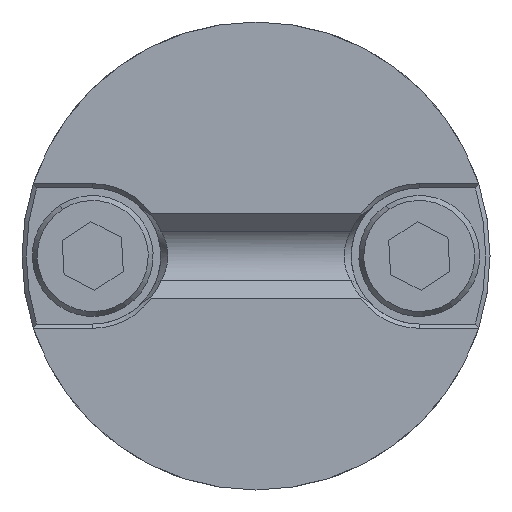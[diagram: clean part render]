
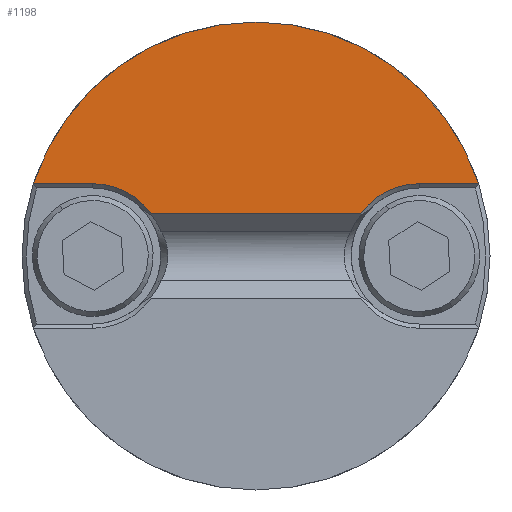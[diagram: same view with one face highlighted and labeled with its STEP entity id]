
A CAD part, front view. The second image highlights one B-rep face of the part: STEP entity #1198.
In plain terms, the highlighted planar face has unit normal (0, -1, 0).
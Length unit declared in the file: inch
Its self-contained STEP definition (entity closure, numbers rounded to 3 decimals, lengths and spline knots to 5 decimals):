
#2 = DIRECTION ( 'NONE',  ( 0., 0., 1. ) ) ;
#6 = DIRECTION ( 'NONE',  ( 0., 1., 0. ) ) ;
#19 = CARTESIAN_POINT ( 'NONE',  ( 0.3, 0., 0. ) ) ;
#158 = DIRECTION ( 'NONE',  ( 0., 0., 1. ) ) ;
#204 = DIRECTION ( 'NONE',  ( 0., 1., 0. ) ) ;
#206 = PLANE ( 'NONE',  #1285 ) ;
#211 = CARTESIAN_POINT ( 'NONE',  ( 0., 0., 0. ) ) ;
#433 = CIRCLE ( 'NONE', #1360, 0.13281 ) ;
#515 = LINE ( 'NONE', #1479, #555 ) ;
#555 = VECTOR ( 'NONE', #1480, 39.37008 ) ;
#585 = CIRCLE ( 'NONE', #1298, 0.43 ) ;
#590 = CIRCLE ( 'NONE', #1322, 0.13281 ) ;
#596 = CIRCLE ( 'NONE', #1238, 0.43 ) ;
#722 = CARTESIAN_POINT ( 'NONE',  ( -0.19242, 0., -0.07789 ) ) ;
#744 = CARTESIAN_POINT ( 'NONE',  ( -0.40898, 0., -0.13281 ) ) ;
#747 = CARTESIAN_POINT ( 'NONE',  ( 0.40898, 0., -0.13281 ) ) ;
#756 = CARTESIAN_POINT ( 'NONE',  ( 0.19242, 0., -0.07789 ) ) ;
#768 = CARTESIAN_POINT ( 'NONE',  ( 0.3, 0., -0.13281 ) ) ;
#857 = EDGE_LOOP ( 'NONE', ( #2012, #2190, #2210, #2175, #986, #983, #985 ) ) ;
#983 = ORIENTED_EDGE ( 'NONE', *, *, #1807, .F. ) ;
#985 = ORIENTED_EDGE ( 'NONE', *, *, #1719, .F. ) ;
#986 = ORIENTED_EDGE ( 'NONE', *, *, #1688, .T. ) ;
#1020 = VECTOR ( 'NONE', #2120, 39.37008 ) ;
#1023 = LINE ( 'NONE', #2028, #1020 ) ;
#1041 = VECTOR ( 'NONE', #2153, 39.37008 ) ;
#1047 = LINE ( 'NONE', #2100, #1041 ) ;
#1057 = FACE_OUTER_BOUND ( 'NONE', #857, .T. ) ;
#1198 = ADVANCED_FACE ( 'NONE', ( #1057 ), #206, .F. ) ;
#1227 = CARTESIAN_POINT ( 'NONE',  ( -0.3, 0., 0. ) ) ;
#1232 = DIRECTION ( 'NONE',  ( 0., 1., 0. ) ) ;
#1238 = AXIS2_PLACEMENT_3D ( 'NONE', #2001, #1990, #1994 ) ;
#1285 = AXIS2_PLACEMENT_3D ( 'NONE', #211, #204, #158 ) ;
#1298 = AXIS2_PLACEMENT_3D ( 'NONE', #1582, #1594, #1592 ) ;
#1322 = AXIS2_PLACEMENT_3D ( 'NONE', #1227, #1232, #1486 ) ;
#1360 = AXIS2_PLACEMENT_3D ( 'NONE', #19, #6, #2 ) ;
#1479 = CARTESIAN_POINT ( 'NONE',  ( -0.25, 0., -0.07789 ) ) ;
#1480 = DIRECTION ( 'NONE',  ( 1., 0., 0. ) ) ;
#1486 = DIRECTION ( 'NONE',  ( 0., 0., 1. ) ) ;
#1522 = CARTESIAN_POINT ( 'NONE',  ( -0.3, 0., -0.13281 ) ) ;
#1535 = CARTESIAN_POINT ( 'NONE',  ( 0., 0., -0.43 ) ) ;
#1582 = CARTESIAN_POINT ( 'NONE',  ( 0., 0., 0. ) ) ;
#1592 = DIRECTION ( 'NONE',  ( 0., 0., 1. ) ) ;
#1594 = DIRECTION ( 'NONE',  ( 0., 1., 0. ) ) ;
#1686 = EDGE_CURVE ( 'NONE', #1870, #1897, #1023, .T. ) ;
#1688 = EDGE_CURVE ( 'NONE', #1964, #1868, #1047, .T. ) ;
#1719 = EDGE_CURVE ( 'NONE', #1870, #1929, #585, .T. ) ;
#1764 = EDGE_CURVE ( 'NONE', #1897, #1836, #433, .T. ) ;
#1785 = EDGE_CURVE ( 'NONE', #1873, #1964, #590, .T. ) ;
#1807 = EDGE_CURVE ( 'NONE', #1929, #1868, #596, .T. ) ;
#1813 = EDGE_CURVE ( 'NONE', #1873, #1836, #515, .T. ) ;
#1836 = VERTEX_POINT ( 'NONE', #756 ) ;
#1868 = VERTEX_POINT ( 'NONE', #744 ) ;
#1870 = VERTEX_POINT ( 'NONE', #747 ) ;
#1873 = VERTEX_POINT ( 'NONE', #722 ) ;
#1897 = VERTEX_POINT ( 'NONE', #768 ) ;
#1929 = VERTEX_POINT ( 'NONE', #1535 ) ;
#1964 = VERTEX_POINT ( 'NONE', #1522 ) ;
#1990 = DIRECTION ( 'NONE',  ( 0., 1., 0. ) ) ;
#1994 = DIRECTION ( 'NONE',  ( 0., 0., 1. ) ) ;
#2001 = CARTESIAN_POINT ( 'NONE',  ( 0., 0., 0. ) ) ;
#2012 = ORIENTED_EDGE ( 'NONE', *, *, #1686, .T. ) ;
#2028 = CARTESIAN_POINT ( 'NONE',  ( 0., 0., -0.13281 ) ) ;
#2100 = CARTESIAN_POINT ( 'NONE',  ( 0., 0., -0.13281 ) ) ;
#2120 = DIRECTION ( 'NONE',  ( -1., 0., 0. ) ) ;
#2153 = DIRECTION ( 'NONE',  ( -1., 0., 0. ) ) ;
#2175 = ORIENTED_EDGE ( 'NONE', *, *, #1785, .T. ) ;
#2190 = ORIENTED_EDGE ( 'NONE', *, *, #1764, .T. ) ;
#2210 = ORIENTED_EDGE ( 'NONE', *, *, #1813, .F. ) ;
